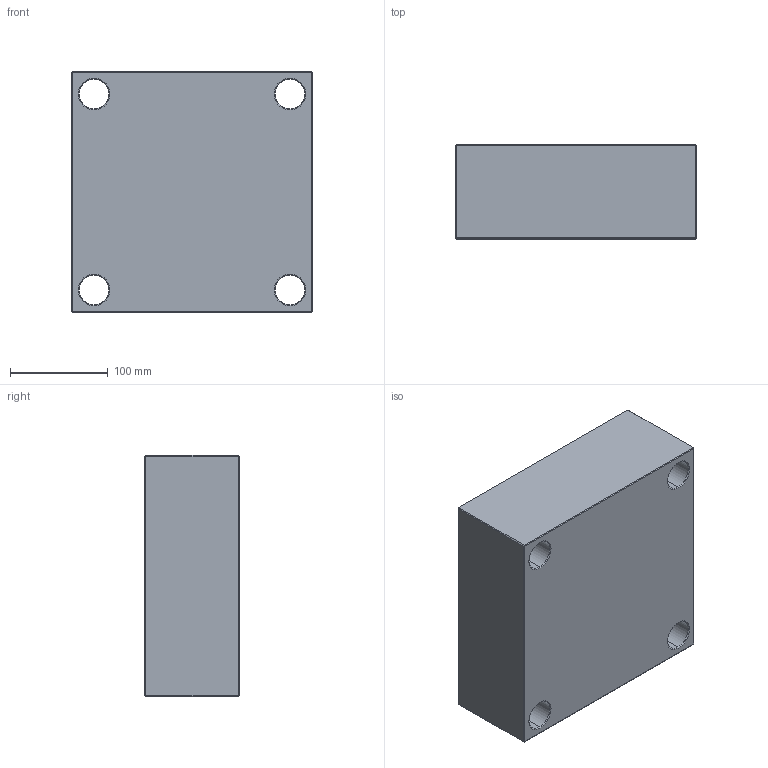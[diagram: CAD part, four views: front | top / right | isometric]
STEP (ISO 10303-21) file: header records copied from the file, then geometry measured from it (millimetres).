
FILE_DESCRIPTION (( 'STEP AP214' ), '1' );
FILE_NAME ('PC-246x246x96.STEP', '2020-04-21T16:09:09', ( 'August' ), ( '' ), 'SwSTEP 2.0', 'SolidWorks 2018', '' );
FILE_SCHEMA (( 'AUTOMOTIVE_DESIGN' ));
Length unit declared in the file: millimetre
Products named in the file (1): PC-246x246x96
Bounding box: 246 x 96 x 246 mm (x, y, z)
Volume: 5517734.1 mm3; surface area: 248187.1 mm2
Topology: 1 solids, 1 shells, 82 faces, 168 edges, 96 vertices
Faces by surface type: plane 34, cone 24, cylinder 24
Entity records: 2170 total; most frequent: DIRECTION 406, CARTESIAN_POINT 347, ORIENTED_EDGE 336, EDGE_CURVE 168, AXIS2_PLACEMENT_3D 155, EDGE_LOOP 98, VECTOR 96, LINE 96
